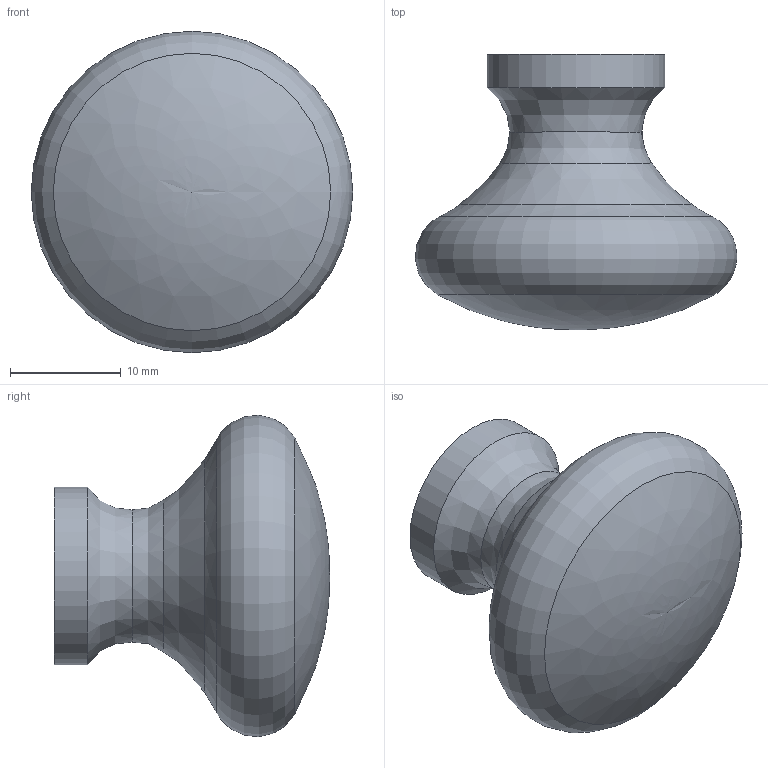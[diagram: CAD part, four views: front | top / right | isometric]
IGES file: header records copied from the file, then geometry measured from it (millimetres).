
Start section: Data from Parasolid IGES Translator 15.0.47, Copyright(c) 2006 Siemens P LM Software. All Rights Reserved.
Global section: file name: 9207418.igs; native system:  By UGS Corp.; preprocessor: XPlus GENERIC/IGES 3.0; author: Noname; organization: Noname; date: 20160119.160700; units: millimetre
Bounding box: 28.99 x 24.8 x 28.99 mm (x, y, z)
Surface area: 2365.1 mm2 (no closed solid volume)
Topology: 0 solids, 0 shells, 8 faces, 29 edges, 24 vertices
Faces by surface type: revolution 7, extrusion 1
